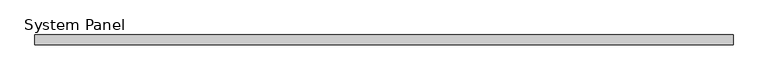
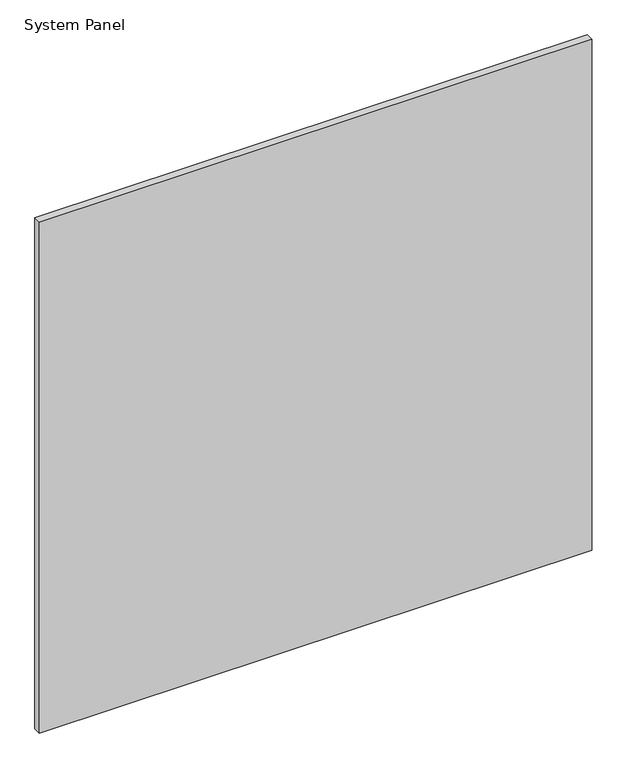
"""IFC4 building model written with IfcOpenShell, lengths in millimetres: plate geometry, System Panel : Panel_Glazed_Generic Showcase_30mm."""

from ifc_helpers import new_model, si_unit, origin, origin_with_axes, place, context, project, spatial, polyline, outline, extrude, source, transform, mapped, element, save


def system_panel_4c336963(model_context):
    return source(origin(), model_context, "Body", "SweptSolid", [
        extrude(outline(polyline([(1048.0030369, 0.0), (-1048.0030369, 0.0), (-1048.0030369, 30.0), (1048.0030369, 30.0), (1048.0030369, 0.0)])), origin_with_axes(), (0.0, 0.0, 1.0), 2050.0),
    ])


if __name__ == "__main__":
    model = new_model("IFC4")
    model_context = context("Model", 3, world=origin())
    ifc_project = project(units=[si_unit("LENGTHUNIT", "METRE", prefix="MILLI")], contexts=[model_context])
    site = spatial("IfcSite", under=ifc_project)
    building = spatial("IfcBuilding", under=site)
    placement = place(None, origin())
    system_panel_shape = system_panel_4c336963(model_context)
    element("IfcPlate", 1, ObjectType="System Panel : Panel_Glazed_Generic Showcase_30mm", at=placement, inside=building, context=model_context, shape_type="MappedRepresentation", body=[
        mapped(system_panel_shape, transform((0.0, 0.0, 0.0), x_axis=(1.0, 0.0, 0.0), y_axis=(0.0, 1.0, 0.0), z_axis=(0.0, 0.0, 1.0))),
    ])
    save(model, "model.ifc")
